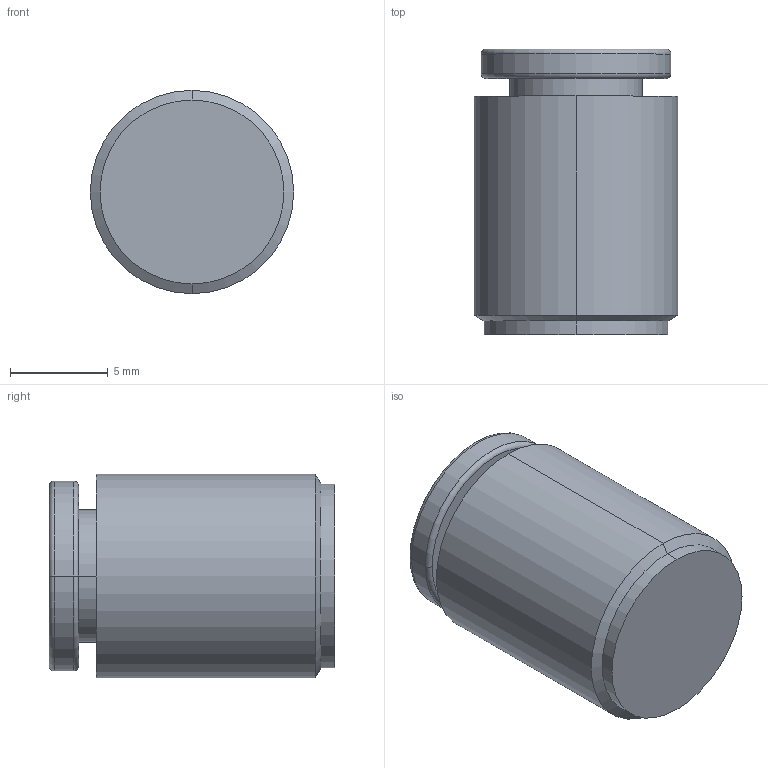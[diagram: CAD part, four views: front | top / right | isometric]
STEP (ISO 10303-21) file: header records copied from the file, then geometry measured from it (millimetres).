
FILE_DESCRIPTION (( 'STEP AP214' ), '1' );
FILE_NAME ('KQ2C06-00A.step.step', '2023-01-06T08:44:40', ( '' ), ( '' ), 'SwSTEP 2.0', 'SolidWorks 2022', '' );
FILE_SCHEMA (( 'AUTOMOTIVE_DESIGN' ));
Length unit declared in the file: millimetre
Products named in the file (3): KQ2C06-00A.step_BUTTON_06; KQ2C06-00A.step_KQ2(H-N-R-P-C)_C06-00; KQ2C06-00A.step
Assembly tree (2 placements, depth 2):
  KQ2C06-00A.step
    KQ2C06-00A.step_KQ2(H-N-R-P-C)_C06-00
    KQ2C06-00A.step_BUTTON_06
Bounding box: 10.4 x 14.6 x 10.4 mm (x, y, z)
Volume: 789.4 mm3; surface area: 1423.2 mm2
Topology: 2 solids, 2 shells, 26 faces, 50 edges, 30 vertices
Faces by surface type: cylinder 12, plane 6, torus 6, cone 2
Entity records: 784 total; most frequent: DIRECTION 148, CARTESIAN_POINT 111, ORIENTED_EDGE 100, AXIS2_PLACEMENT_3D 67, EDGE_CURVE 50, CIRCLE 36, EDGE_LOOP 30, VERTEX_POINT 30
